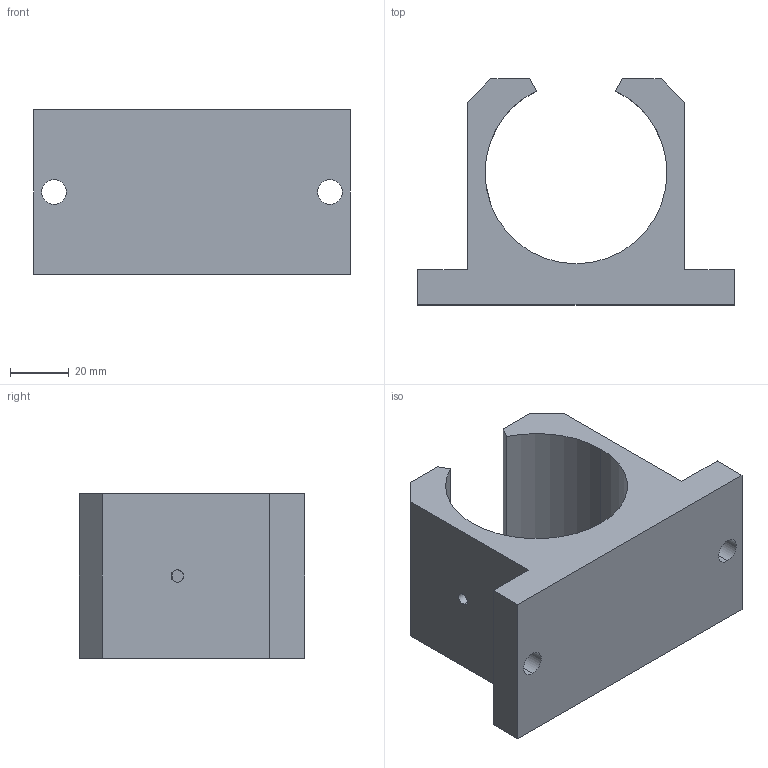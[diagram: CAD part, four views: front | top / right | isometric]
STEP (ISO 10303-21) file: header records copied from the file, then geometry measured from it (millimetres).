
FILE_DESCRIPTION (( 'STEP AP214' ), '1' );
FILE_NAME ('KALGSO-40.step', '2020-03-04T13:16:26', ( '' ), ( '' ), 'SwSTEP 2.0', 'SolidWorks 2019', '' );
FILE_SCHEMA (( 'AUTOMOTIVE_DESIGN' ));
Length unit declared in the file: millimetre
Products named in the file (1): KALGSO-40
Bounding box: 108 x 77 x 56 mm (x, y, z)
Volume: 164289.4 mm3; surface area: 34673.1 mm2
Topology: 1 solids, 1 shells, 24 faces, 69 edges, 46 vertices
Faces by surface type: plane 15, cylinder 9
Entity records: 907 total; most frequent: CARTESIAN_POINT 198, ORIENTED_EDGE 138, DIRECTION 131, EDGE_CURVE 69, VECTOR 49, LINE 49, VERTEX_POINT 46, AXIS2_PLACEMENT_3D 41
